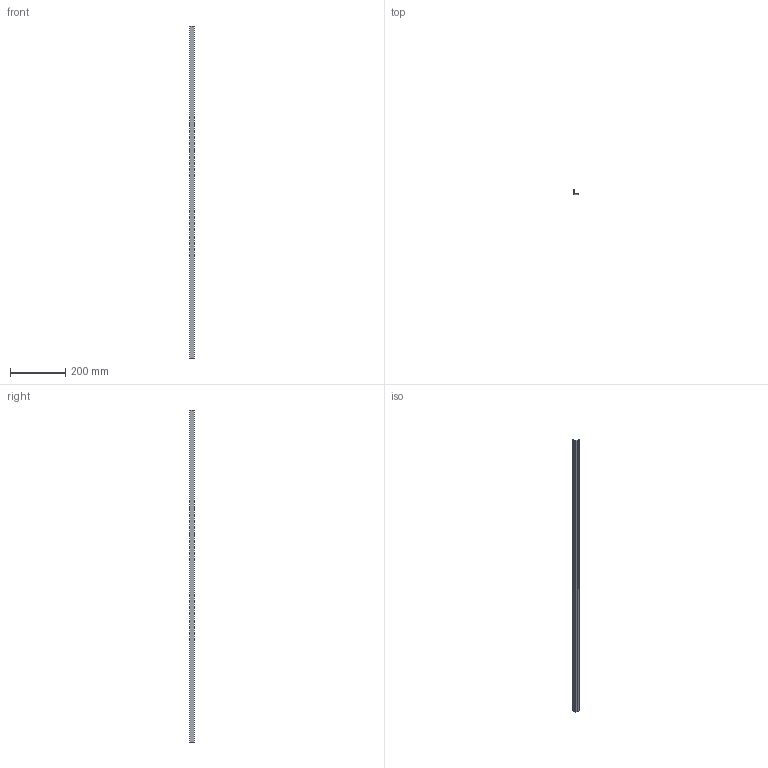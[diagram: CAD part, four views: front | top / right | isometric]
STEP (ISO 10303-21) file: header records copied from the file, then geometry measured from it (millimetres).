
FILE_DESCRIPTION (( 'STEP AP214' ), '1' );
FILE_NAME ('AC2 Profile.STEP', '2024-10-11T14:40:15', ( '' ), ( '' ), 'SwSTEP 2.0', 'SolidWorks 2023', '' );
FILE_SCHEMA (( 'AUTOMOTIVE_DESIGN' ));
Length unit declared in the file: millimetre
Products named in the file (1): AC2 Profile
Bounding box: 16 x 16 x 1200 mm (x, y, z)
Volume: 48791.2 mm3; surface area: 101784.4 mm2
Topology: 1 solids, 1 shells, 24 faces, 66 edges, 44 vertices
Faces by surface type: plane 24
Entity records: 777 total; most frequent: CARTESIAN_POINT 135, ORIENTED_EDGE 132, DIRECTION 116, LINE 66, EDGE_CURVE 66, VECTOR 66, VERTEX_POINT 44, EDGE_LOOP 26
